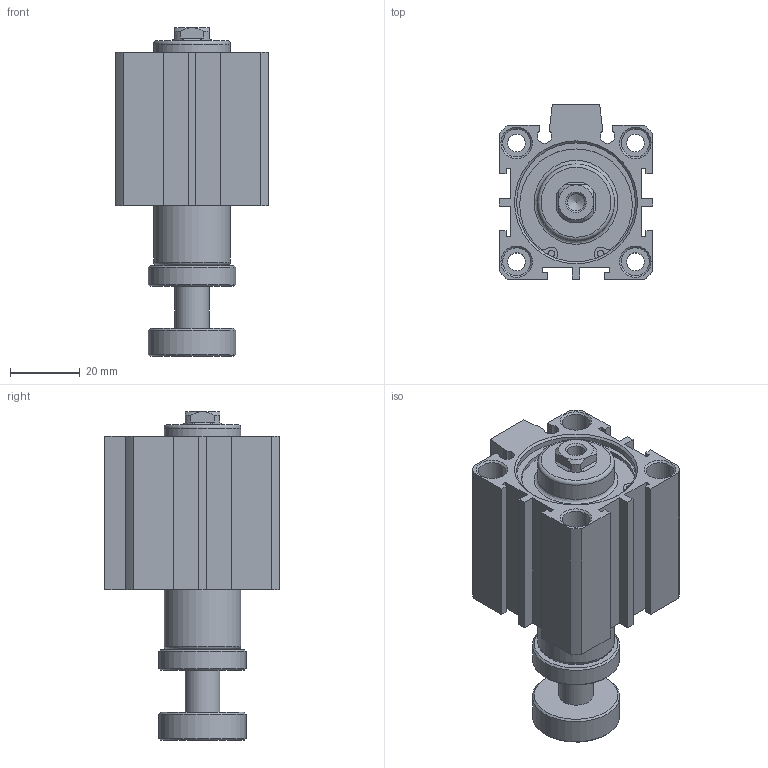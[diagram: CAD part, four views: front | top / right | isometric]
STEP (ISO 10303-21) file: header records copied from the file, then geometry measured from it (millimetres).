
FILE_DESCRIPTION((''),'2;1');
FILE_NAME('I:\3D電子目錄\氣缸\JDAR\JDAR-S\JDAR32-S\JDAR32x10-S.stp','2007-05-05T09:25:19',('662F206'),(''),'Autodesk Inventor 11','Autodesk Inventor 11','');
FILE_SCHEMA(('AUTOMOTIVE_DESIGN { 1 0 10303 214 1 1 1 1 }'));
Length unit declared in the file: millimetre
Products named in the file (3): JDAR32-S; JDAR32; R 形環 35
Assembly tree (3 placements, depth 2):
  JDAR32-S
    JDAR32
    R 形環 35  x2
Bounding box: 44 x 50 x 94.1 mm (x, y, z)
Volume: 86115.9 mm3; surface area: 26150.1 mm2
Topology: 3 solids, 3 shells, 170 faces, 399 edges, 259 vertices
Faces by surface type: plane 88, cylinder 51, cone 21, bspline 8, torus 2
Full cylindrical faces by diameter (mm): 1.9 x4, 2.2 x2, 5.1 x4, 8 x8, 10 x1, 22 x2, 25 x2, 34 x4, 36 x2
Entity records: 4435 total; most frequent: CARTESIAN_POINT 886, DIRECTION 740, ORIENTED_EDGE 622, EDGE_CURVE 311, AXIS2_PLACEMENT_3D 281, EDGE_LOOP 246, VERTEX_POINT 233, VECTOR 178
